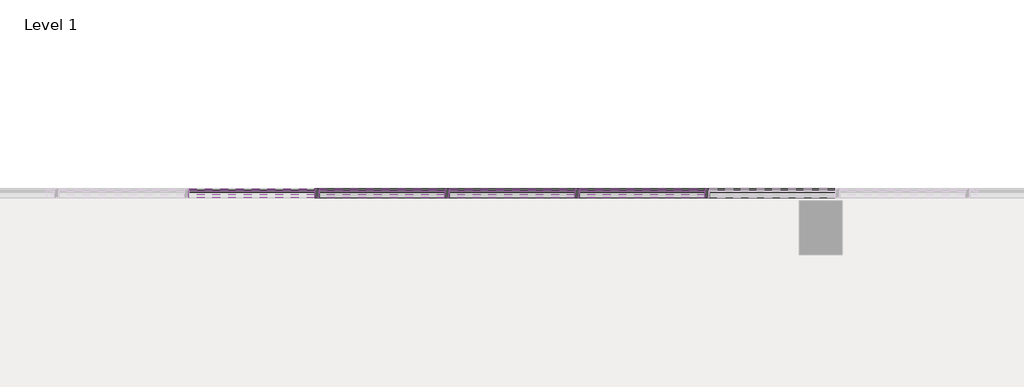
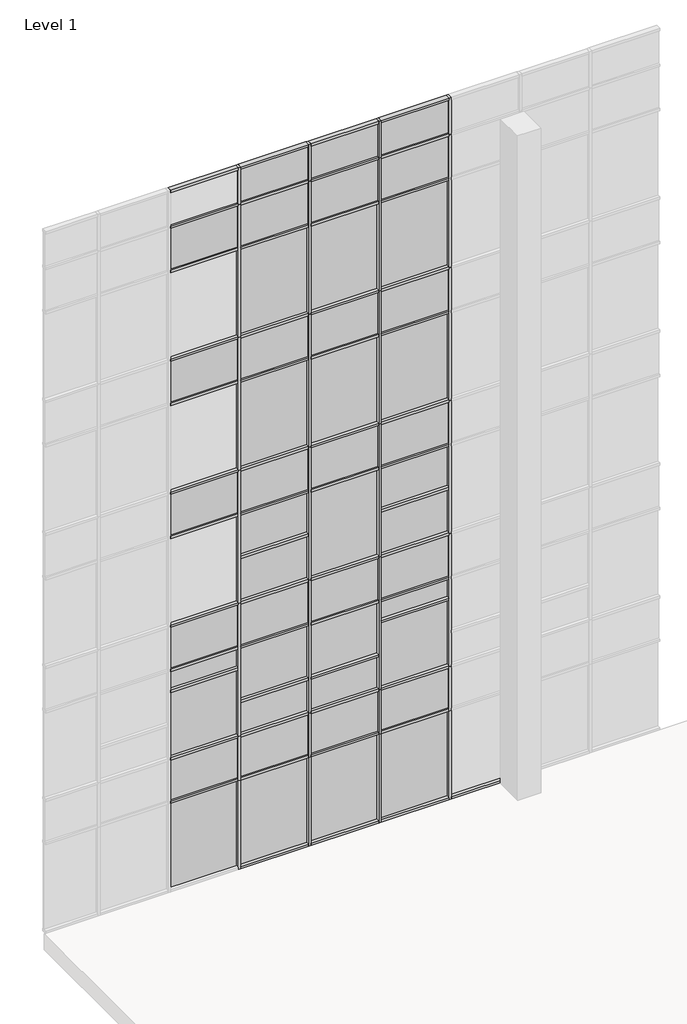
# One storey, part 11 of 23: 82 members, 46 plates.
"""IFC4 building model written with IfcOpenShell, lengths in millimetres."""

from ifc_helpers import new_model, si_unit, origin, place, context, project, spatial, transform, mapped, element, save
from components import member_2b49869a, member_f92b8aa2, member_810865a4, member_f0fea5a5, member_6d5c3e5e, member_9764dd38, system_panel_glazed_14c75400, system_panel_glazed_7d142148, system_panel_glazed_725bf07f, system_panel_glazed_8331d6f5, system_panel_glazed_33b17147, system_panel_glazed_3ed5c639, system_panel_glazed_f9823347, system_panel_solid_5dfe6f83, system_panel_solid_e25e2004, system_panel_solid_b7551183

model = new_model("IFC4")

# Units and contexts
model_context = context("Model", 3, world=origin())
ifc_project = project(units=[si_unit("LENGTHUNIT", "METRE", prefix="MILLI")], contexts=[model_context])

# Site, building, storey
site = spatial("IfcSite", under=ifc_project)
building = spatial("IfcBuilding", under=site)
storey = spatial("IfcBuildingStorey", under=building, Name="Level 1", Elevation=0.0)

# Members
placement = place(None, origin())
member_shape = member_2b49869a(model_context)
element("IfcMember", 1, ObjectType="Rectangular Mullion : 2.5\" x 5\" rectangular", at=placement, inside=storey, context=model_context, shape_type="MappedRepresentation", body=[
    mapped(member_shape, transform((-59919.4623649, 10017.7896508, 2438.4), x_axis=(1.0, 0.0, 0.0), y_axis=(0.0, -1.0, 0.0), z_axis=(0.0, 0.0, -1.0))),
])
element("IfcMember", 2, ObjectType="Rectangular Mullion : 2.5\" x 5\" rectangular", at=placement, inside=storey, context=model_context, shape_type="MappedRepresentation", body=[
    mapped(member_shape, transform((-61748.2623649, 10017.7896508, 2438.4), x_axis=(1.0, 0.0, 0.0), y_axis=(0.0, -1.0, 0.0), z_axis=(0.0, 0.0, -1.0))),
])
element("IfcMember", 3, ObjectType="Rectangular Mullion : 2.5\" x 5\" rectangular", at=placement, inside=storey, context=model_context, shape_type="MappedRepresentation", body=[
    mapped(member_shape, transform((-63577.0623649, 10017.7896508, 2438.4), x_axis=(1.0, 0.0, 0.0), y_axis=(0.0, -1.0, 0.0), z_axis=(0.0, 0.0, -1.0))),
])
element("IfcMember", 4, ObjectType="Rectangular Mullion : 2.5\" x 5\" rectangular", at=placement, inside=storey, context=model_context, shape_type="MappedRepresentation", body=[
    mapped(member_shape, transform((-58090.6623649, 10017.7896508, 2438.4), x_axis=(1.0, 0.0, 0.0), y_axis=(0.0, -1.0, 0.0), z_axis=(0.0, 0.0, -1.0))),
])
member_2_shape = member_f92b8aa2(model_context)
element("IfcMember", 5, ObjectType="Rectangular Mullion : 2.5\" x 5\" rectangular", at=placement, inside=storey, context=model_context, shape_type="MappedRepresentation", body=[
    mapped(member_2_shape, transform((-59919.4623649, 10017.7896508, 18288.0), x_axis=(1.0, 0.0, 0.0), y_axis=(0.0, -1.0, 0.0), z_axis=(0.0, 0.0, -1.0))),
])
element("IfcMember", 6, ObjectType="Rectangular Mullion : 2.5\" x 5\" rectangular", at=placement, inside=storey, context=model_context, shape_type="MappedRepresentation", body=[
    mapped(member_2_shape, transform((-61748.2623649, 10017.7896508, 18288.0), x_axis=(1.0, 0.0, 0.0), y_axis=(0.0, -1.0, 0.0), z_axis=(0.0, 0.0, -1.0))),
])
element("IfcMember", 7, ObjectType="Rectangular Mullion : 2.5\" x 5\" rectangular", at=placement, inside=storey, context=model_context, shape_type="MappedRepresentation", body=[
    mapped(member_2_shape, transform((-63577.0623649, 10017.7896508, 18288.0), x_axis=(1.0, 0.0, 0.0), y_axis=(0.0, -1.0, 0.0), z_axis=(0.0, 0.0, -1.0))),
])
element("IfcMember", 8, ObjectType="Rectangular Mullion : 2.5\" x 5\" rectangular", at=placement, inside=storey, context=model_context, shape_type="MappedRepresentation", body=[
    mapped(member_2_shape, transform((-58090.6623649, 10017.7896508, 18288.0), x_axis=(1.0, 0.0, 0.0), y_axis=(0.0, -1.0, 0.0), z_axis=(0.0, 0.0, -1.0))),
])
member_3_shape = member_810865a4(model_context)
element("IfcMember", 9, ObjectType="Rectangular Mullion : 2.5\" x 5\" rectangular", at=placement, inside=storey, context=model_context, shape_type="MappedRepresentation", body=[
    mapped(member_3_shape, transform((-58090.6623649, 10017.7896508, 3657.6), x_axis=(1.0, 0.0, 0.0), y_axis=(0.0, -1.0, 0.0), z_axis=(0.0, 0.0, -1.0))),
])
element("IfcMember", 10, ObjectType="Rectangular Mullion : 2.5\" x 5\" rectangular", at=placement, inside=storey, context=model_context, shape_type="MappedRepresentation", body=[
    mapped(member_3_shape, transform((-59919.4623649, 10017.7896508, 14630.4), x_axis=(1.0, 0.0, 0.0), y_axis=(0.0, -1.0, 0.0), z_axis=(0.0, 0.0, -1.0))),
])
element("IfcMember", 11, ObjectType="Rectangular Mullion : 2.5\" x 5\" rectangular", at=placement, inside=storey, context=model_context, shape_type="MappedRepresentation", body=[
    mapped(member_3_shape, transform((-59919.4623649, 10017.7896508, 10972.8), x_axis=(1.0, 0.0, 0.0), y_axis=(0.0, -1.0, 0.0), z_axis=(0.0, 0.0, -1.0))),
])
element("IfcMember", 12, ObjectType="Rectangular Mullion : 2.5\" x 5\" rectangular", at=placement, inside=storey, context=model_context, shape_type="MappedRepresentation", body=[
    mapped(member_3_shape, transform((-59919.4623649, 10017.7896508, 7315.2), x_axis=(1.0, 0.0, 0.0), y_axis=(0.0, -1.0, 0.0), z_axis=(0.0, 0.0, -1.0))),
])
element("IfcMember", 13, ObjectType="Rectangular Mullion : 2.5\" x 5\" rectangular", at=placement, inside=storey, context=model_context, shape_type="MappedRepresentation", body=[
    mapped(member_3_shape, transform((-59919.4623649, 10017.7896508, 3657.6), x_axis=(1.0, 0.0, 0.0), y_axis=(0.0, -1.0, 0.0), z_axis=(0.0, 0.0, -1.0))),
])
element("IfcMember", 14, ObjectType="Rectangular Mullion : 2.5\" x 5\" rectangular", at=placement, inside=storey, context=model_context, shape_type="MappedRepresentation", body=[
    mapped(member_3_shape, transform((-61748.2623649, 10017.7896508, 14630.4), x_axis=(1.0, 0.0, 0.0), y_axis=(0.0, -1.0, 0.0), z_axis=(0.0, 0.0, -1.0))),
])
element("IfcMember", 15, ObjectType="Rectangular Mullion : 2.5\" x 5\" rectangular", at=placement, inside=storey, context=model_context, shape_type="MappedRepresentation", body=[
    mapped(member_3_shape, transform((-61748.2623649, 10017.7896508, 10972.8), x_axis=(1.0, 0.0, 0.0), y_axis=(0.0, -1.0, 0.0), z_axis=(0.0, 0.0, -1.0))),
])
element("IfcMember", 16, ObjectType="Rectangular Mullion : 2.5\" x 5\" rectangular", at=placement, inside=storey, context=model_context, shape_type="MappedRepresentation", body=[
    mapped(member_3_shape, transform((-61748.2623649, 10017.7896508, 7315.2), x_axis=(1.0, 0.0, 0.0), y_axis=(0.0, -1.0, 0.0), z_axis=(0.0, 0.0, -1.0))),
])
element("IfcMember", 17, ObjectType="Rectangular Mullion : 2.5\" x 5\" rectangular", at=placement, inside=storey, context=model_context, shape_type="MappedRepresentation", body=[
    mapped(member_3_shape, transform((-61748.2623649, 10017.7896508, 3657.6), x_axis=(1.0, 0.0, 0.0), y_axis=(0.0, -1.0, 0.0), z_axis=(0.0, 0.0, -1.0))),
])
element("IfcMember", 18, ObjectType="Rectangular Mullion : 2.5\" x 5\" rectangular", at=placement, inside=storey, context=model_context, shape_type="MappedRepresentation", body=[
    mapped(member_3_shape, transform((-63577.0623649, 10017.7896508, 14630.4), x_axis=(1.0, 0.0, 0.0), y_axis=(0.0, -1.0, 0.0), z_axis=(0.0, 0.0, -1.0))),
])
element("IfcMember", 19, ObjectType="Rectangular Mullion : 2.5\" x 5\" rectangular", at=placement, inside=storey, context=model_context, shape_type="MappedRepresentation", body=[
    mapped(member_3_shape, transform((-63577.0623649, 10017.7896508, 10972.8), x_axis=(1.0, 0.0, 0.0), y_axis=(0.0, -1.0, 0.0), z_axis=(0.0, 0.0, -1.0))),
])
element("IfcMember", 20, ObjectType="Rectangular Mullion : 2.5\" x 5\" rectangular", at=placement, inside=storey, context=model_context, shape_type="MappedRepresentation", body=[
    mapped(member_3_shape, transform((-63577.0623649, 10017.7896508, 7315.2), x_axis=(1.0, 0.0, 0.0), y_axis=(0.0, -1.0, 0.0), z_axis=(0.0, 0.0, -1.0))),
])
element("IfcMember", 21, ObjectType="Rectangular Mullion : 2.5\" x 5\" rectangular", at=placement, inside=storey, context=model_context, shape_type="MappedRepresentation", body=[
    mapped(member_3_shape, transform((-63577.0623649, 10017.7896508, 3657.6), x_axis=(1.0, 0.0, 0.0), y_axis=(0.0, -1.0, 0.0), z_axis=(0.0, 0.0, -1.0))),
])
element("IfcMember", 22, ObjectType="Rectangular Mullion : 2.5\" x 5\" rectangular", at=placement, inside=storey, context=model_context, shape_type="MappedRepresentation", body=[
    mapped(member_3_shape, transform((-58090.6623649, 10017.7896508, 14630.4), x_axis=(1.0, 0.0, 0.0), y_axis=(0.0, -1.0, 0.0), z_axis=(0.0, 0.0, -1.0))),
])
element("IfcMember", 23, ObjectType="Rectangular Mullion : 2.5\" x 5\" rectangular", at=placement, inside=storey, context=model_context, shape_type="MappedRepresentation", body=[
    mapped(member_3_shape, transform((-58090.6623649, 10017.7896508, 10972.8), x_axis=(1.0, 0.0, 0.0), y_axis=(0.0, -1.0, 0.0), z_axis=(0.0, 0.0, -1.0))),
])
element("IfcMember", 24, ObjectType="Rectangular Mullion : 2.5\" x 5\" rectangular", at=placement, inside=storey, context=model_context, shape_type="MappedRepresentation", body=[
    mapped(member_3_shape, transform((-58090.6623649, 10017.7896508, 7315.2), x_axis=(1.0, 0.0, 0.0), y_axis=(0.0, -1.0, 0.0), z_axis=(0.0, 0.0, -1.0))),
])
member_4_shape = member_f0fea5a5(model_context)
element("IfcMember", 25, ObjectType="Rectangular Mullion : 2.5\" x 5\" rectangular", at=placement, inside=storey, context=model_context, shape_type="MappedRepresentation", body=[
    mapped(member_4_shape, transform((-61748.2623649, 10017.7896508, 0.0), x_axis=(1.0, 0.0, 0.0), y_axis=(0.0, -1.0, 0.0), z_axis=(0.0, 0.0, -1.0))),
])
element("IfcMember", 26, ObjectType="Rectangular Mullion : 2.5\" x 5\" rectangular", at=placement, inside=storey, context=model_context, shape_type="MappedRepresentation", body=[
    mapped(member_4_shape, transform((-63577.0623649, 10017.7896508, 0.0), x_axis=(1.0, 0.0, 0.0), y_axis=(0.0, -1.0, 0.0), z_axis=(0.0, 0.0, -1.0))),
])
element("IfcMember", 27, ObjectType="Rectangular Mullion : 2.5\" x 5\" rectangular", at=placement, inside=storey, context=model_context, shape_type="MappedRepresentation", body=[
    mapped(member_4_shape, transform((-59919.4623649, 10017.7896508, 0.0), x_axis=(1.0, 0.0, 0.0), y_axis=(0.0, -1.0, 0.0), z_axis=(0.0, 0.0, -1.0))),
])
element("IfcMember", 28, ObjectType="Rectangular Mullion : 2.5\" x 5\" rectangular", at=placement, inside=storey, context=model_context, shape_type="MappedRepresentation", body=[
    mapped(member_4_shape, transform((-58090.6623649, 10017.7896508, 0.0), x_axis=(1.0, 0.0, 0.0), y_axis=(0.0, -1.0, 0.0), z_axis=(0.0, 0.0, -1.0))),
])
member_5_shape = member_6d5c3e5e(model_context)
element("IfcMember", 29, ObjectType="Rectangular Mullion : 2.5\" x 5\" rectangular", at=placement, inside=storey, context=model_context, shape_type="MappedRepresentation", body=[
    mapped(member_5_shape, transform((-58122.4123649, 10017.7896508, 19304.0), x_axis=(0.0, 0.0, 1.0), y_axis=(0.0, -1.0, 0.0), z_axis=(1.0, 0.0, 0.0))),
])
element("IfcMember", 30, ObjectType="Rectangular Mullion : 2.5\" x 5\" rectangular", at=placement, inside=storey, context=model_context, shape_type="MappedRepresentation", body=[
    mapped(member_5_shape, transform((-59951.2123649, 10017.7896508, 19304.0), x_axis=(0.0, 0.0, 1.0), y_axis=(0.0, -1.0, 0.0), z_axis=(1.0, 0.0, 0.0))),
])
element("IfcMember", 31, ObjectType="Rectangular Mullion : 2.5\" x 5\" rectangular", at=placement, inside=storey, context=model_context, shape_type="MappedRepresentation", body=[
    mapped(member_5_shape, transform((-61780.0123649, 10017.7896508, 19304.0), x_axis=(0.0, 0.0, 1.0), y_axis=(0.0, -1.0, 0.0), z_axis=(1.0, 0.0, 0.0))),
])
element("IfcMember", 32, ObjectType="Rectangular Mullion : 2.5\" x 5\" rectangular", at=placement, inside=storey, context=model_context, shape_type="MappedRepresentation", body=[
    mapped(member_5_shape, transform((-63608.8123649, 10017.7896508, 19304.0), x_axis=(0.0, 0.0, 1.0), y_axis=(0.0, -1.0, 0.0), z_axis=(1.0, 0.0, 0.0))),
])
member_6_shape = member_9764dd38(model_context)
element("IfcMember", 33, ObjectType="Rectangular Mullion : 2.5\" x 5\" rectangular", at=placement, inside=storey, context=model_context, shape_type="MappedRepresentation", body=[
    mapped(member_6_shape, transform((-58122.4123649, 10017.7896508, 17068.8), x_axis=(0.0, 0.0, 1.0), y_axis=(0.0, -1.0, 0.0), z_axis=(1.0, 0.0, 0.0))),
])
element("IfcMember", 34, ObjectType="Rectangular Mullion : 2.5\" x 5\" rectangular", at=placement, inside=storey, context=model_context, shape_type="MappedRepresentation", body=[
    mapped(member_6_shape, transform((-59951.2123649, 10017.7896508, 17068.8), x_axis=(0.0, 0.0, 1.0), y_axis=(0.0, -1.0, 0.0), z_axis=(1.0, 0.0, 0.0))),
])
element("IfcMember", 35, ObjectType="Rectangular Mullion : 2.5\" x 5\" rectangular", at=placement, inside=storey, context=model_context, shape_type="MappedRepresentation", body=[
    mapped(member_6_shape, transform((-61780.0123649, 10017.7896508, 17068.8), x_axis=(0.0, 0.0, 1.0), y_axis=(0.0, -1.0, 0.0), z_axis=(1.0, 0.0, 0.0))),
])
element("IfcMember", 36, ObjectType="Rectangular Mullion : 2.5\" x 5\" rectangular", at=placement, inside=storey, context=model_context, shape_type="MappedRepresentation", body=[
    mapped(member_6_shape, transform((-63608.8123649, 10017.7896508, 17068.8), x_axis=(0.0, 0.0, 1.0), y_axis=(0.0, -1.0, 0.0), z_axis=(1.0, 0.0, 0.0))),
])
element("IfcMember", 37, ObjectType="Rectangular Mullion : 2.5\" x 5\" rectangular", at=placement, inside=storey, context=model_context, shape_type="MappedRepresentation", body=[
    mapped(member_6_shape, transform((-58122.4123649, 10017.7896508, 13411.2), x_axis=(0.0, 0.0, 1.0), y_axis=(0.0, -1.0, 0.0), z_axis=(1.0, 0.0, 0.0))),
])
element("IfcMember", 38, ObjectType="Rectangular Mullion : 2.5\" x 5\" rectangular", at=placement, inside=storey, context=model_context, shape_type="MappedRepresentation", body=[
    mapped(member_6_shape, transform((-59951.2123649, 10017.7896508, 13411.2), x_axis=(0.0, 0.0, 1.0), y_axis=(0.0, -1.0, 0.0), z_axis=(1.0, 0.0, 0.0))),
])
element("IfcMember", 39, ObjectType="Rectangular Mullion : 2.5\" x 5\" rectangular", at=placement, inside=storey, context=model_context, shape_type="MappedRepresentation", body=[
    mapped(member_6_shape, transform((-61780.0123649, 10017.7896508, 13411.2), x_axis=(0.0, 0.0, 1.0), y_axis=(0.0, -1.0, 0.0), z_axis=(1.0, 0.0, 0.0))),
])
element("IfcMember", 40, ObjectType="Rectangular Mullion : 2.5\" x 5\" rectangular", at=placement, inside=storey, context=model_context, shape_type="MappedRepresentation", body=[
    mapped(member_6_shape, transform((-63608.8123649, 10017.7896508, 13411.2), x_axis=(0.0, 0.0, 1.0), y_axis=(0.0, -1.0, 0.0), z_axis=(1.0, 0.0, 0.0))),
])
element("IfcMember", 41, ObjectType="Rectangular Mullion : 2.5\" x 5\" rectangular", at=placement, inside=storey, context=model_context, shape_type="MappedRepresentation", body=[
    mapped(member_6_shape, transform((-58122.4123649, 10017.7896508, 9753.6), x_axis=(0.0, 0.0, 1.0), y_axis=(0.0, -1.0, 0.0), z_axis=(1.0, 0.0, 0.0))),
])
element("IfcMember", 42, ObjectType="Rectangular Mullion : 2.5\" x 5\" rectangular", at=placement, inside=storey, context=model_context, shape_type="MappedRepresentation", body=[
    mapped(member_6_shape, transform((-59951.2123649, 10017.7896508, 9753.6), x_axis=(0.0, 0.0, 1.0), y_axis=(0.0, -1.0, 0.0), z_axis=(1.0, 0.0, 0.0))),
])
element("IfcMember", 43, ObjectType="Rectangular Mullion : 2.5\" x 5\" rectangular", at=placement, inside=storey, context=model_context, shape_type="MappedRepresentation", body=[
    mapped(member_6_shape, transform((-61780.0123649, 10017.7896508, 9753.6), x_axis=(0.0, 0.0, 1.0), y_axis=(0.0, -1.0, 0.0), z_axis=(1.0, 0.0, 0.0))),
])
element("IfcMember", 44, ObjectType="Rectangular Mullion : 2.5\" x 5\" rectangular", at=placement, inside=storey, context=model_context, shape_type="MappedRepresentation", body=[
    mapped(member_6_shape, transform((-63608.8123649, 10017.7896508, 9753.6), x_axis=(0.0, 0.0, 1.0), y_axis=(0.0, -1.0, 0.0), z_axis=(1.0, 0.0, 0.0))),
])
element("IfcMember", 45, ObjectType="Rectangular Mullion : 2.5\" x 5\" rectangular", at=placement, inside=storey, context=model_context, shape_type="MappedRepresentation", body=[
    mapped(member_6_shape, transform((-58122.4123649, 10017.7896508, 6096.0), x_axis=(0.0, 0.0, 1.0), y_axis=(0.0, -1.0, 0.0), z_axis=(1.0, 0.0, 0.0))),
])
element("IfcMember", 46, ObjectType="Rectangular Mullion : 2.5\" x 5\" rectangular", at=placement, inside=storey, context=model_context, shape_type="MappedRepresentation", body=[
    mapped(member_6_shape, transform((-59951.2123649, 10017.7896508, 6096.0), x_axis=(0.0, 0.0, 1.0), y_axis=(0.0, -1.0, 0.0), z_axis=(1.0, 0.0, 0.0))),
])
element("IfcMember", 47, ObjectType="Rectangular Mullion : 2.5\" x 5\" rectangular", at=placement, inside=storey, context=model_context, shape_type="MappedRepresentation", body=[
    mapped(member_6_shape, transform((-61780.0123649, 10017.7896508, 6096.0), x_axis=(0.0, 0.0, 1.0), y_axis=(0.0, -1.0, 0.0), z_axis=(1.0, 0.0, 0.0))),
])
element("IfcMember", 48, ObjectType="Rectangular Mullion : 2.5\" x 5\" rectangular", at=placement, inside=storey, context=model_context, shape_type="MappedRepresentation", body=[
    mapped(member_6_shape, transform((-63608.8123649, 10017.7896508, 6096.0), x_axis=(0.0, 0.0, 1.0), y_axis=(0.0, -1.0, 0.0), z_axis=(1.0, 0.0, 0.0))),
])
element("IfcMember", 49, ObjectType="Rectangular Mullion : 2.5\" x 5\" rectangular", at=placement, inside=storey, context=model_context, shape_type="MappedRepresentation", body=[
    mapped(member_6_shape, transform((-58122.4123649, 10017.7896508, 2470.15), x_axis=(0.0, 0.0, 1.0), y_axis=(0.0, -1.0, 0.0), z_axis=(1.0, 0.0, 0.0))),
])
element("IfcMember", 50, ObjectType="Rectangular Mullion : 2.5\" x 5\" rectangular", at=placement, inside=storey, context=model_context, shape_type="MappedRepresentation", body=[
    mapped(member_6_shape, transform((-59951.2123649, 10017.7896508, 2470.15), x_axis=(0.0, 0.0, 1.0), y_axis=(0.0, -1.0, 0.0), z_axis=(1.0, 0.0, 0.0))),
])
element("IfcMember", 51, ObjectType="Rectangular Mullion : 2.5\" x 5\" rectangular", at=placement, inside=storey, context=model_context, shape_type="MappedRepresentation", body=[
    mapped(member_6_shape, transform((-61780.0123649, 10017.7896508, 2470.15), x_axis=(0.0, 0.0, 1.0), y_axis=(0.0, -1.0, 0.0), z_axis=(1.0, 0.0, 0.0))),
])
element("IfcMember", 52, ObjectType="Rectangular Mullion : 2.5\" x 5\" rectangular", at=placement, inside=storey, context=model_context, shape_type="MappedRepresentation", body=[
    mapped(member_6_shape, transform((-63608.8123649, 10017.7896508, 2470.15), x_axis=(0.0, 0.0, 1.0), y_axis=(0.0, -1.0, 0.0), z_axis=(1.0, 0.0, 0.0))),
])
element("IfcMember", 53, ObjectType="Rectangular Mullion : 2.5\" x 5\" rectangular", at=placement, inside=storey, context=model_context, shape_type="MappedRepresentation", body=[
    mapped(member_6_shape, transform((-61780.0123649, 10017.7896508, 4603.75), x_axis=(0.0, 0.0, 1.0), y_axis=(0.0, -1.0, 0.0), z_axis=(1.0, 0.0, 0.0))),
])
element("IfcMember", 54, ObjectType="Rectangular Mullion : 2.5\" x 5\" rectangular", at=placement, inside=storey, context=model_context, shape_type="MappedRepresentation", body=[
    mapped(member_6_shape, transform((-63608.8123649, 10017.7896508, 5518.15), x_axis=(0.0, 0.0, 1.0), y_axis=(0.0, -1.0, 0.0), z_axis=(1.0, 0.0, 0.0))),
])
element("IfcMember", 55, ObjectType="Rectangular Mullion : 2.5\" x 5\" rectangular", at=placement, inside=storey, context=model_context, shape_type="MappedRepresentation", body=[
    mapped(member_6_shape, transform((-61780.0123649, 10017.7896508, 8566.15), x_axis=(0.0, 0.0, 1.0), y_axis=(0.0, -1.0, 0.0), z_axis=(1.0, 0.0, 0.0))),
])
element("IfcMember", 56, ObjectType="Rectangular Mullion : 2.5\" x 5\" rectangular", at=placement, inside=storey, context=model_context, shape_type="MappedRepresentation", body=[
    mapped(member_6_shape, transform((-58122.4123649, 10017.7896508, 8566.15), x_axis=(0.0, 0.0, 1.0), y_axis=(0.0, -1.0, 0.0), z_axis=(1.0, 0.0, 0.0))),
])
element("IfcMember", 57, ObjectType="Rectangular Mullion : 2.5\" x 5\" rectangular", at=placement, inside=storey, context=model_context, shape_type="MappedRepresentation", body=[
    mapped(member_6_shape, transform((-59951.2123649, 10017.7896508, 4603.75), x_axis=(0.0, 0.0, 1.0), y_axis=(0.0, -1.0, 0.0), z_axis=(1.0, 0.0, 0.0))),
])
element("IfcMember", 58, ObjectType="Rectangular Mullion : 2.5\" x 5\" rectangular", at=placement, inside=storey, context=model_context, shape_type="MappedRepresentation", body=[
    mapped(member_6_shape, transform((-58122.4123649, 10017.7896508, 5518.15), x_axis=(0.0, 0.0, 1.0), y_axis=(0.0, -1.0, 0.0), z_axis=(1.0, 0.0, 0.0))),
])
element("IfcMember", 59, ObjectType="Rectangular Mullion : 2.5\" x 5\" rectangular", at=placement, inside=storey, context=model_context, shape_type="MappedRepresentation", body=[
    mapped(member_5_shape, transform((-58058.9123649, 10017.7896508, 0.0), x_axis=(0.0, 0.0, -1.0), y_axis=(0.0, -1.0, 0.0), z_axis=(-1.0, 0.0, 0.0))),
])
element("IfcMember", 60, ObjectType="Rectangular Mullion : 2.5\" x 5\" rectangular", at=placement, inside=storey, context=model_context, shape_type="MappedRepresentation", body=[
    mapped(member_5_shape, transform((-59887.7123649, 10017.7896508, 0.0), x_axis=(0.0, 0.0, -1.0), y_axis=(0.0, -1.0, 0.0), z_axis=(-1.0, 0.0, 0.0))),
])
element("IfcMember", 61, ObjectType="Rectangular Mullion : 2.5\" x 5\" rectangular", at=placement, inside=storey, context=model_context, shape_type="MappedRepresentation", body=[
    mapped(member_5_shape, transform((-61716.5123649, 10017.7896508, 0.0), x_axis=(0.0, 0.0, -1.0), y_axis=(0.0, -1.0, 0.0), z_axis=(-1.0, 0.0, 0.0))),
])
element("IfcMember", 62, ObjectType="Rectangular Mullion : 2.5\" x 5\" rectangular", at=placement, inside=storey, context=model_context, shape_type="MappedRepresentation", body=[
    mapped(member_5_shape, transform((-63545.3123649, 10017.7896508, 0.0), x_axis=(0.0, 0.0, -1.0), y_axis=(0.0, -1.0, 0.0), z_axis=(-1.0, 0.0, 0.0))),
])
element("IfcMember", 63, ObjectType="Rectangular Mullion : 2.5\" x 5\" rectangular", at=placement, inside=storey, context=model_context, shape_type="MappedRepresentation", body=[
    mapped(member_6_shape, transform((-58122.4123649, 10017.7896508, 10972.8), x_axis=(0.0, 0.0, 1.0), y_axis=(0.0, -1.0, 0.0), z_axis=(1.0, 0.0, 0.0))),
])
element("IfcMember", 64, ObjectType="Rectangular Mullion : 2.5\" x 5\" rectangular", at=placement, inside=storey, context=model_context, shape_type="MappedRepresentation", body=[
    mapped(member_6_shape, transform((-59951.2123649, 10017.7896508, 10972.8), x_axis=(0.0, 0.0, 1.0), y_axis=(0.0, -1.0, 0.0), z_axis=(1.0, 0.0, 0.0))),
])
element("IfcMember", 65, ObjectType="Rectangular Mullion : 2.5\" x 5\" rectangular", at=placement, inside=storey, context=model_context, shape_type="MappedRepresentation", body=[
    mapped(member_6_shape, transform((-61780.0123649, 10017.7896508, 10972.8), x_axis=(0.0, 0.0, 1.0), y_axis=(0.0, -1.0, 0.0), z_axis=(1.0, 0.0, 0.0))),
])
element("IfcMember", 66, ObjectType="Rectangular Mullion : 2.5\" x 5\" rectangular", at=placement, inside=storey, context=model_context, shape_type="MappedRepresentation", body=[
    mapped(member_6_shape, transform((-63608.8123649, 10017.7896508, 10972.8), x_axis=(0.0, 0.0, 1.0), y_axis=(0.0, -1.0, 0.0), z_axis=(1.0, 0.0, 0.0))),
])
element("IfcMember", 67, ObjectType="Rectangular Mullion : 2.5\" x 5\" rectangular", at=placement, inside=storey, context=model_context, shape_type="MappedRepresentation", body=[
    mapped(member_6_shape, transform((-58122.4123649, 10017.7896508, 7315.2), x_axis=(0.0, 0.0, 1.0), y_axis=(0.0, -1.0, 0.0), z_axis=(1.0, 0.0, 0.0))),
])
element("IfcMember", 68, ObjectType="Rectangular Mullion : 2.5\" x 5\" rectangular", at=placement, inside=storey, context=model_context, shape_type="MappedRepresentation", body=[
    mapped(member_6_shape, transform((-59951.2123649, 10017.7896508, 7315.2), x_axis=(0.0, 0.0, 1.0), y_axis=(0.0, -1.0, 0.0), z_axis=(1.0, 0.0, 0.0))),
])
element("IfcMember", 69, ObjectType="Rectangular Mullion : 2.5\" x 5\" rectangular", at=placement, inside=storey, context=model_context, shape_type="MappedRepresentation", body=[
    mapped(member_6_shape, transform((-61780.0123649, 10017.7896508, 7315.2), x_axis=(0.0, 0.0, 1.0), y_axis=(0.0, -1.0, 0.0), z_axis=(1.0, 0.0, 0.0))),
])
element("IfcMember", 70, ObjectType="Rectangular Mullion : 2.5\" x 5\" rectangular", at=placement, inside=storey, context=model_context, shape_type="MappedRepresentation", body=[
    mapped(member_6_shape, transform((-63608.8123649, 10017.7896508, 7315.2), x_axis=(0.0, 0.0, 1.0), y_axis=(0.0, -1.0, 0.0), z_axis=(1.0, 0.0, 0.0))),
])
element("IfcMember", 71, ObjectType="Rectangular Mullion : 2.5\" x 5\" rectangular", at=placement, inside=storey, context=model_context, shape_type="MappedRepresentation", body=[
    mapped(member_6_shape, transform((-59951.2123649, 10017.7896508, 18288.0), x_axis=(0.0, 0.0, 1.0), y_axis=(0.0, -1.0, 0.0), z_axis=(1.0, 0.0, 0.0))),
])
element("IfcMember", 72, ObjectType="Rectangular Mullion : 2.5\" x 5\" rectangular", at=placement, inside=storey, context=model_context, shape_type="MappedRepresentation", body=[
    mapped(member_6_shape, transform((-61780.0123649, 10017.7896508, 18288.0), x_axis=(0.0, 0.0, 1.0), y_axis=(0.0, -1.0, 0.0), z_axis=(1.0, 0.0, 0.0))),
])
element("IfcMember", 73, ObjectType="Rectangular Mullion : 2.5\" x 5\" rectangular", at=placement, inside=storey, context=model_context, shape_type="MappedRepresentation", body=[
    mapped(member_6_shape, transform((-63608.8123649, 10017.7896508, 18288.0), x_axis=(0.0, 0.0, 1.0), y_axis=(0.0, -1.0, 0.0), z_axis=(1.0, 0.0, 0.0))),
])
element("IfcMember", 74, ObjectType="Rectangular Mullion : 2.5\" x 5\" rectangular", at=placement, inside=storey, context=model_context, shape_type="MappedRepresentation", body=[
    mapped(member_6_shape, transform((-58122.4123649, 10017.7896508, 18288.0), x_axis=(0.0, 0.0, 1.0), y_axis=(0.0, -1.0, 0.0), z_axis=(1.0, 0.0, 0.0))),
])
element("IfcMember", 75, ObjectType="Rectangular Mullion : 2.5\" x 5\" rectangular", at=placement, inside=storey, context=model_context, shape_type="MappedRepresentation", body=[
    mapped(member_6_shape, transform((-58122.4123649, 10017.7896508, 14630.4), x_axis=(0.0, 0.0, 1.0), y_axis=(0.0, -1.0, 0.0), z_axis=(1.0, 0.0, 0.0))),
])
element("IfcMember", 76, ObjectType="Rectangular Mullion : 2.5\" x 5\" rectangular", at=placement, inside=storey, context=model_context, shape_type="MappedRepresentation", body=[
    mapped(member_6_shape, transform((-59951.2123649, 10017.7896508, 14630.4), x_axis=(0.0, 0.0, 1.0), y_axis=(0.0, -1.0, 0.0), z_axis=(1.0, 0.0, 0.0))),
])
element("IfcMember", 77, ObjectType="Rectangular Mullion : 2.5\" x 5\" rectangular", at=placement, inside=storey, context=model_context, shape_type="MappedRepresentation", body=[
    mapped(member_6_shape, transform((-61780.0123649, 10017.7896508, 14630.4), x_axis=(0.0, 0.0, 1.0), y_axis=(0.0, -1.0, 0.0), z_axis=(1.0, 0.0, 0.0))),
])
element("IfcMember", 78, ObjectType="Rectangular Mullion : 2.5\" x 5\" rectangular", at=placement, inside=storey, context=model_context, shape_type="MappedRepresentation", body=[
    mapped(member_6_shape, transform((-63608.8123649, 10017.7896508, 14630.4), x_axis=(0.0, 0.0, 1.0), y_axis=(0.0, -1.0, 0.0), z_axis=(1.0, 0.0, 0.0))),
])
element("IfcMember", 79, ObjectType="Rectangular Mullion : 2.5\" x 5\" rectangular", at=placement, inside=storey, context=model_context, shape_type="MappedRepresentation", body=[
    mapped(member_6_shape, transform((-61780.0123649, 10017.7896508, 3657.6), x_axis=(0.0, 0.0, 1.0), y_axis=(0.0, -1.0, 0.0), z_axis=(1.0, 0.0, 0.0))),
])
element("IfcMember", 80, ObjectType="Rectangular Mullion : 2.5\" x 5\" rectangular", at=placement, inside=storey, context=model_context, shape_type="MappedRepresentation", body=[
    mapped(member_6_shape, transform((-59951.2123649, 10017.7896508, 3657.6), x_axis=(0.0, 0.0, 1.0), y_axis=(0.0, -1.0, 0.0), z_axis=(1.0, 0.0, 0.0))),
])
element("IfcMember", 81, ObjectType="Rectangular Mullion : 2.5\" x 5\" rectangular", at=placement, inside=storey, context=model_context, shape_type="MappedRepresentation", body=[
    mapped(member_6_shape, transform((-58122.4123649, 10017.7896508, 3657.6), x_axis=(0.0, 0.0, 1.0), y_axis=(0.0, -1.0, 0.0), z_axis=(1.0, 0.0, 0.0))),
])
element("IfcMember", 82, ObjectType="Rectangular Mullion : 2.5\" x 5\" rectangular", at=placement, inside=storey, context=model_context, shape_type="MappedRepresentation", body=[
    mapped(member_6_shape, transform((-63608.8123649, 10017.7896508, 3657.6), x_axis=(0.0, 0.0, 1.0), y_axis=(0.0, -1.0, 0.0), z_axis=(1.0, 0.0, 0.0))),
])

# Plates
system_panel_glazed_shape = system_panel_glazed_14c75400(model_context)
element("IfcPlate", 83, ObjectType="System Panel : Glazed", at=placement, inside=storey, context=model_context, shape_type="MappedRepresentation", body=[
    mapped(system_panel_glazed_shape, transform((-59005.0623649, 10017.7896508, 14662.15), x_axis=(1.0, 0.0, 0.0), y_axis=(0.0, 1.0, 0.0), z_axis=(0.0, 0.0, 1.0))),
])
element("IfcPlate", 84, ObjectType="System Panel : Glazed", at=placement, inside=storey, context=model_context, shape_type="MappedRepresentation", body=[
    mapped(system_panel_glazed_shape, transform((-60833.8623649, 10017.7896508, 14662.15), x_axis=(1.0, 0.0, 0.0), y_axis=(0.0, 1.0, 0.0), z_axis=(0.0, 0.0, 1.0))),
])
element("IfcPlate", 85, ObjectType="System Panel : Glazed", at=placement, inside=storey, context=model_context, shape_type="MappedRepresentation", body=[
    mapped(system_panel_glazed_shape, transform((-62662.6623649, 10017.7896508, 14662.15), x_axis=(1.0, 0.0, 0.0), y_axis=(0.0, 1.0, 0.0), z_axis=(0.0, 0.0, 1.0))),
])
element("IfcPlate", 86, ObjectType="System Panel : Glazed", at=placement, inside=storey, context=model_context, shape_type="MappedRepresentation", body=[
    mapped(system_panel_glazed_shape, transform((-59005.0623649, 10017.7896508, 11004.55), x_axis=(1.0, 0.0, 0.0), y_axis=(0.0, 1.0, 0.0), z_axis=(0.0, 0.0, 1.0))),
])
element("IfcPlate", 87, ObjectType="System Panel : Glazed", at=placement, inside=storey, context=model_context, shape_type="MappedRepresentation", body=[
    mapped(system_panel_glazed_shape, transform((-60833.8623649, 10017.7896508, 11004.55), x_axis=(1.0, 0.0, 0.0), y_axis=(0.0, 1.0, 0.0), z_axis=(0.0, 0.0, 1.0))),
])
element("IfcPlate", 88, ObjectType="System Panel : Glazed", at=placement, inside=storey, context=model_context, shape_type="MappedRepresentation", body=[
    mapped(system_panel_glazed_shape, transform((-62662.6623649, 10017.7896508, 11004.55), x_axis=(1.0, 0.0, 0.0), y_axis=(0.0, 1.0, 0.0), z_axis=(0.0, 0.0, 1.0))),
])
element("IfcPlate", 89, ObjectType="System Panel : Glazed", at=placement, inside=storey, context=model_context, shape_type="MappedRepresentation", body=[
    mapped(system_panel_glazed_shape, transform((-60833.8623649, 10017.7896508, 7346.95), x_axis=(1.0, 0.0, 0.0), y_axis=(0.0, 1.0, 0.0), z_axis=(0.0, 0.0, 1.0))),
])
element("IfcPlate", 90, ObjectType="System Panel : Glazed", at=placement, inside=storey, context=model_context, shape_type="MappedRepresentation", body=[
    mapped(system_panel_glazed_shape, transform((-59005.0623649, 10017.7896508, 63.5), x_axis=(1.0, 0.0, 0.0), y_axis=(0.0, 1.0, 0.0), z_axis=(0.0, 0.0, 1.0))),
])
element("IfcPlate", 91, ObjectType="System Panel : Glazed", at=placement, inside=storey, context=model_context, shape_type="MappedRepresentation", body=[
    mapped(system_panel_glazed_shape, transform((-60833.8623649, 10017.7896508, 63.5), x_axis=(1.0, 0.0, 0.0), y_axis=(0.0, 1.0, 0.0), z_axis=(0.0, 0.0, 1.0))),
])
element("IfcPlate", 92, ObjectType="System Panel : Glazed", at=placement, inside=storey, context=model_context, shape_type="MappedRepresentation", body=[
    mapped(system_panel_glazed_shape, transform((-62662.6623649, 10017.7896508, 63.5), x_axis=(1.0, 0.0, 0.0), y_axis=(0.0, 1.0, 0.0), z_axis=(0.0, 0.0, 1.0))),
])
element("IfcPlate", 93, ObjectType="System Panel : Glazed", at=placement, inside=storey, context=model_context, shape_type="MappedRepresentation", body=[
    mapped(system_panel_glazed_shape, transform((-64491.4623649, 10017.7896508, 63.5), x_axis=(1.0, 0.0, 0.0), y_axis=(0.0, 1.0, 0.0), z_axis=(0.0, 0.0, 1.0))),
])
system_panel_glazed_2_shape = system_panel_glazed_7d142148(model_context)
element("IfcPlate", 94, ObjectType="System Panel : Glazed", at=placement, inside=storey, context=model_context, shape_type="MappedRepresentation", body=[
    mapped(system_panel_glazed_2_shape, transform((-60833.8623649, 10017.7896508, 3689.35), x_axis=(1.0, 0.0, 0.0), y_axis=(0.0, 1.0, 0.0), z_axis=(0.0, 0.0, 1.0))),
])
element("IfcPlate", 95, ObjectType="System Panel : Glazed", at=placement, inside=storey, context=model_context, shape_type="MappedRepresentation", body=[
    mapped(system_panel_glazed_2_shape, transform((-62662.6623649, 10017.7896508, 3689.35), x_axis=(1.0, 0.0, 0.0), y_axis=(0.0, 1.0, 0.0), z_axis=(0.0, 0.0, 1.0))),
])
system_panel_glazed_3_shape = system_panel_glazed_725bf07f(model_context)
element("IfcPlate", 96, ObjectType="System Panel : Glazed", at=placement, inside=storey, context=model_context, shape_type="MappedRepresentation", body=[
    mapped(system_panel_glazed_3_shape, transform((-62662.6623649, 10017.7896508, 4635.5), x_axis=(1.0, 0.0, 0.0), y_axis=(0.0, 1.0, 0.0), z_axis=(0.0, 0.0, 1.0))),
])
element("IfcPlate", 97, ObjectType="System Panel : Glazed", at=placement, inside=storey, context=model_context, shape_type="MappedRepresentation", body=[
    mapped(system_panel_glazed_3_shape, transform((-60833.8623649, 10017.7896508, 4635.5), x_axis=(1.0, 0.0, 0.0), y_axis=(0.0, 1.0, 0.0), z_axis=(0.0, 0.0, 1.0))),
])
system_panel_glazed_4_shape = system_panel_glazed_8331d6f5(model_context)
element("IfcPlate", 98, ObjectType="System Panel : Glazed", at=placement, inside=storey, context=model_context, shape_type="MappedRepresentation", body=[
    mapped(system_panel_glazed_4_shape, transform((-59005.0623649, 10017.7896508, 3689.35), x_axis=(1.0, 0.0, 0.0), y_axis=(0.0, 1.0, 0.0), z_axis=(0.0, 0.0, 1.0))),
])
element("IfcPlate", 99, ObjectType="System Panel : Glazed", at=placement, inside=storey, context=model_context, shape_type="MappedRepresentation", body=[
    mapped(system_panel_glazed_4_shape, transform((-64491.4623649, 10017.7896508, 3689.35), x_axis=(1.0, 0.0, 0.0), y_axis=(0.0, 1.0, 0.0), z_axis=(0.0, 0.0, 1.0))),
])
system_panel_glazed_5_shape = system_panel_glazed_33b17147(model_context)
element("IfcPlate", 100, ObjectType="System Panel : Glazed", at=placement, inside=storey, context=model_context, shape_type="MappedRepresentation", body=[
    mapped(system_panel_glazed_5_shape, transform((-64491.4623649, 10017.7896508, 5549.9), x_axis=(1.0, 0.0, 0.0), y_axis=(0.0, 1.0, 0.0), z_axis=(0.0, 0.0, 1.0))),
])
element("IfcPlate", 101, ObjectType="System Panel : Glazed", at=placement, inside=storey, context=model_context, shape_type="MappedRepresentation", body=[
    mapped(system_panel_glazed_5_shape, transform((-59005.0623649, 10017.7896508, 5549.9), x_axis=(1.0, 0.0, 0.0), y_axis=(0.0, 1.0, 0.0), z_axis=(0.0, 0.0, 1.0))),
])
system_panel_glazed_6_shape = system_panel_glazed_3ed5c639(model_context)
element("IfcPlate", 102, ObjectType="System Panel : Glazed", at=placement, inside=storey, context=model_context, shape_type="MappedRepresentation", body=[
    mapped(system_panel_glazed_6_shape, transform((-59005.0623649, 10017.7896508, 7346.95), x_axis=(1.0, 0.0, 0.0), y_axis=(0.0, 1.0, 0.0), z_axis=(0.0, 0.0, 1.0))),
])
element("IfcPlate", 103, ObjectType="System Panel : Glazed", at=placement, inside=storey, context=model_context, shape_type="MappedRepresentation", body=[
    mapped(system_panel_glazed_6_shape, transform((-62662.6623649, 10017.7896508, 7346.95), x_axis=(1.0, 0.0, 0.0), y_axis=(0.0, 1.0, 0.0), z_axis=(0.0, 0.0, 1.0))),
])
system_panel_glazed_7_shape = system_panel_glazed_f9823347(model_context)
element("IfcPlate", 104, ObjectType="System Panel : Glazed", at=placement, inside=storey, context=model_context, shape_type="MappedRepresentation", body=[
    mapped(system_panel_glazed_7_shape, transform((-62662.6623649, 10017.7896508, 8597.9), x_axis=(1.0, 0.0, 0.0), y_axis=(0.0, 1.0, 0.0), z_axis=(0.0, 0.0, 1.0))),
])
element("IfcPlate", 105, ObjectType="System Panel : Glazed", at=placement, inside=storey, context=model_context, shape_type="MappedRepresentation", body=[
    mapped(system_panel_glazed_7_shape, transform((-59005.0623649, 10017.7896508, 8597.9), x_axis=(1.0, 0.0, 0.0), y_axis=(0.0, 1.0, 0.0), z_axis=(0.0, 0.0, 1.0))),
])
system_panel_solid_shape = system_panel_solid_5dfe6f83(model_context)
element("IfcPlate", 106, ObjectType="System Panel : Solid", at=placement, inside=storey, context=model_context, shape_type="MappedRepresentation", body=[
    mapped(system_panel_solid_shape, transform((-62662.6623649, 10017.7896508, 18319.75), x_axis=(1.0, 0.0, 0.0), y_axis=(0.0, 1.0, 0.0), z_axis=(0.0, 0.0, 1.0))),
])
element("IfcPlate", 107, ObjectType="System Panel : Solid", at=placement, inside=storey, context=model_context, shape_type="MappedRepresentation", body=[
    mapped(system_panel_solid_shape, transform((-60833.8623649, 10017.7896508, 18319.75), x_axis=(1.0, 0.0, 0.0), y_axis=(0.0, 1.0, 0.0), z_axis=(0.0, 0.0, 1.0))),
])
element("IfcPlate", 108, ObjectType="System Panel : Solid", at=placement, inside=storey, context=model_context, shape_type="MappedRepresentation", body=[
    mapped(system_panel_solid_shape, transform((-59005.0623649, 10017.7896508, 18319.75), x_axis=(1.0, 0.0, 0.0), y_axis=(0.0, 1.0, 0.0), z_axis=(0.0, 0.0, 1.0))),
])
system_panel_solid_2_shape = system_panel_solid_e25e2004(model_context)
element("IfcPlate", 109, ObjectType="System Panel : Solid", at=placement, inside=storey, context=model_context, shape_type="MappedRepresentation", body=[
    mapped(system_panel_solid_2_shape, transform((-59005.0623649, 10017.7896508, 17100.55), x_axis=(1.0, 0.0, 0.0), y_axis=(0.0, 1.0, 0.0), z_axis=(0.0, 0.0, 1.0))),
])
element("IfcPlate", 110, ObjectType="System Panel : Solid", at=placement, inside=storey, context=model_context, shape_type="MappedRepresentation", body=[
    mapped(system_panel_solid_2_shape, transform((-60833.8623649, 10017.7896508, 17100.55), x_axis=(1.0, 0.0, 0.0), y_axis=(0.0, 1.0, 0.0), z_axis=(0.0, 0.0, 1.0))),
])
element("IfcPlate", 111, ObjectType="System Panel : Solid", at=placement, inside=storey, context=model_context, shape_type="MappedRepresentation", body=[
    mapped(system_panel_solid_2_shape, transform((-62662.6623649, 10017.7896508, 17100.55), x_axis=(1.0, 0.0, 0.0), y_axis=(0.0, 1.0, 0.0), z_axis=(0.0, 0.0, 1.0))),
])
element("IfcPlate", 112, ObjectType="System Panel : Solid", at=placement, inside=storey, context=model_context, shape_type="MappedRepresentation", body=[
    mapped(system_panel_solid_2_shape, transform((-64491.4623649, 10017.7896508, 17100.55), x_axis=(1.0, 0.0, 0.0), y_axis=(0.0, 1.0, 0.0), z_axis=(0.0, 0.0, 1.0))),
])
element("IfcPlate", 113, ObjectType="System Panel : Solid", at=placement, inside=storey, context=model_context, shape_type="MappedRepresentation", body=[
    mapped(system_panel_solid_2_shape, transform((-59005.0623649, 10017.7896508, 13442.95), x_axis=(1.0, 0.0, 0.0), y_axis=(0.0, 1.0, 0.0), z_axis=(0.0, 0.0, 1.0))),
])
element("IfcPlate", 114, ObjectType="System Panel : Solid", at=placement, inside=storey, context=model_context, shape_type="MappedRepresentation", body=[
    mapped(system_panel_solid_2_shape, transform((-60833.8623649, 10017.7896508, 13442.95), x_axis=(1.0, 0.0, 0.0), y_axis=(0.0, 1.0, 0.0), z_axis=(0.0, 0.0, 1.0))),
])
element("IfcPlate", 115, ObjectType="System Panel : Solid", at=placement, inside=storey, context=model_context, shape_type="MappedRepresentation", body=[
    mapped(system_panel_solid_2_shape, transform((-62662.6623649, 10017.7896508, 13442.95), x_axis=(1.0, 0.0, 0.0), y_axis=(0.0, 1.0, 0.0), z_axis=(0.0, 0.0, 1.0))),
])
element("IfcPlate", 116, ObjectType="System Panel : Solid", at=placement, inside=storey, context=model_context, shape_type="MappedRepresentation", body=[
    mapped(system_panel_solid_2_shape, transform((-64491.4623649, 10017.7896508, 13442.95), x_axis=(1.0, 0.0, 0.0), y_axis=(0.0, 1.0, 0.0), z_axis=(0.0, 0.0, 1.0))),
])
element("IfcPlate", 117, ObjectType="System Panel : Solid", at=placement, inside=storey, context=model_context, shape_type="MappedRepresentation", body=[
    mapped(system_panel_solid_2_shape, transform((-59005.0623649, 10017.7896508, 9785.35), x_axis=(1.0, 0.0, 0.0), y_axis=(0.0, 1.0, 0.0), z_axis=(0.0, 0.0, 1.0))),
])
element("IfcPlate", 118, ObjectType="System Panel : Solid", at=placement, inside=storey, context=model_context, shape_type="MappedRepresentation", body=[
    mapped(system_panel_solid_2_shape, transform((-60833.8623649, 10017.7896508, 9785.35), x_axis=(1.0, 0.0, 0.0), y_axis=(0.0, 1.0, 0.0), z_axis=(0.0, 0.0, 1.0))),
])
element("IfcPlate", 119, ObjectType="System Panel : Solid", at=placement, inside=storey, context=model_context, shape_type="MappedRepresentation", body=[
    mapped(system_panel_solid_2_shape, transform((-62662.6623649, 10017.7896508, 9785.35), x_axis=(1.0, 0.0, 0.0), y_axis=(0.0, 1.0, 0.0), z_axis=(0.0, 0.0, 1.0))),
])
element("IfcPlate", 120, ObjectType="System Panel : Solid", at=placement, inside=storey, context=model_context, shape_type="MappedRepresentation", body=[
    mapped(system_panel_solid_2_shape, transform((-64491.4623649, 10017.7896508, 9785.35), x_axis=(1.0, 0.0, 0.0), y_axis=(0.0, 1.0, 0.0), z_axis=(0.0, 0.0, 1.0))),
])
element("IfcPlate", 121, ObjectType="System Panel : Solid", at=placement, inside=storey, context=model_context, shape_type="MappedRepresentation", body=[
    mapped(system_panel_solid_2_shape, transform((-59005.0623649, 10017.7896508, 6127.75), x_axis=(1.0, 0.0, 0.0), y_axis=(0.0, 1.0, 0.0), z_axis=(0.0, 0.0, 1.0))),
])
element("IfcPlate", 122, ObjectType="System Panel : Solid", at=placement, inside=storey, context=model_context, shape_type="MappedRepresentation", body=[
    mapped(system_panel_solid_2_shape, transform((-60833.8623649, 10017.7896508, 6127.75), x_axis=(1.0, 0.0, 0.0), y_axis=(0.0, 1.0, 0.0), z_axis=(0.0, 0.0, 1.0))),
])
element("IfcPlate", 123, ObjectType="System Panel : Solid", at=placement, inside=storey, context=model_context, shape_type="MappedRepresentation", body=[
    mapped(system_panel_solid_2_shape, transform((-62662.6623649, 10017.7896508, 6127.75), x_axis=(1.0, 0.0, 0.0), y_axis=(0.0, 1.0, 0.0), z_axis=(0.0, 0.0, 1.0))),
])
element("IfcPlate", 124, ObjectType="System Panel : Solid", at=placement, inside=storey, context=model_context, shape_type="MappedRepresentation", body=[
    mapped(system_panel_solid_2_shape, transform((-64491.4623649, 10017.7896508, 6127.75), x_axis=(1.0, 0.0, 0.0), y_axis=(0.0, 1.0, 0.0), z_axis=(0.0, 0.0, 1.0))),
])
system_panel_solid_3_shape = system_panel_solid_b7551183(model_context)
element("IfcPlate", 125, ObjectType="System Panel : Solid", at=placement, inside=storey, context=model_context, shape_type="MappedRepresentation", body=[
    mapped(system_panel_solid_3_shape, transform((-59005.0623649, 10017.7896508, 2501.9), x_axis=(1.0, 0.0, 0.0), y_axis=(0.0, 1.0, 0.0), z_axis=(0.0, 0.0, 1.0))),
])
element("IfcPlate", 126, ObjectType="System Panel : Solid", at=placement, inside=storey, context=model_context, shape_type="MappedRepresentation", body=[
    mapped(system_panel_solid_3_shape, transform((-60833.8623649, 10017.7896508, 2501.9), x_axis=(1.0, 0.0, 0.0), y_axis=(0.0, 1.0, 0.0), z_axis=(0.0, 0.0, 1.0))),
])
element("IfcPlate", 127, ObjectType="System Panel : Solid", at=placement, inside=storey, context=model_context, shape_type="MappedRepresentation", body=[
    mapped(system_panel_solid_3_shape, transform((-62662.6623649, 10017.7896508, 2501.9), x_axis=(1.0, 0.0, 0.0), y_axis=(0.0, 1.0, 0.0), z_axis=(0.0, 0.0, 1.0))),
])
element("IfcPlate", 128, ObjectType="System Panel : Solid", at=placement, inside=storey, context=model_context, shape_type="MappedRepresentation", body=[
    mapped(system_panel_solid_3_shape, transform((-64491.4623649, 10017.7896508, 2501.9), x_axis=(1.0, 0.0, 0.0), y_axis=(0.0, 1.0, 0.0), z_axis=(0.0, 0.0, 1.0))),
])

save(model, "model.ifc")
